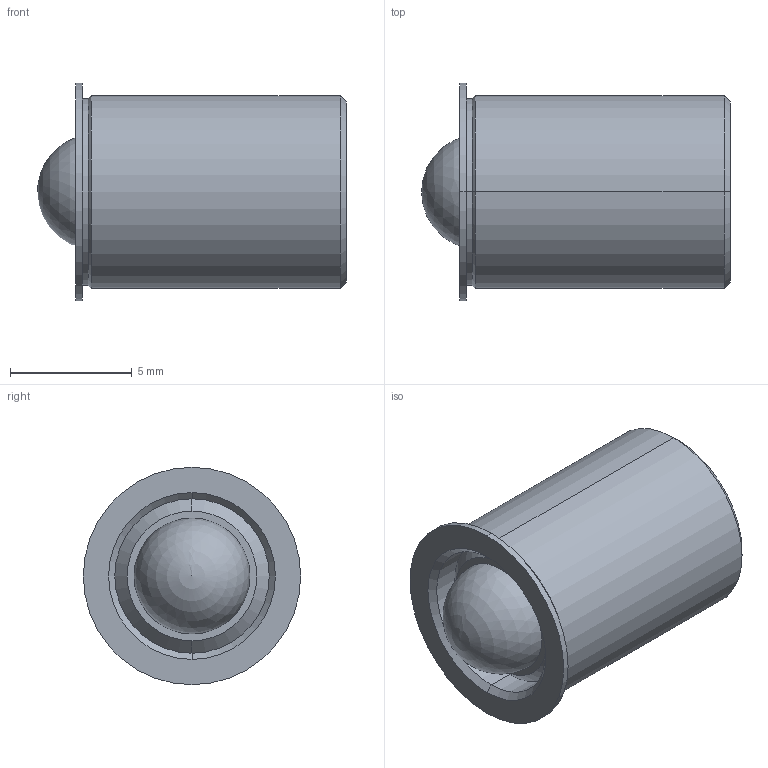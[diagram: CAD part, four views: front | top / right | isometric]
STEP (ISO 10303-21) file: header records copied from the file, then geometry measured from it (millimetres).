
FILE_DESCRIPTION (( 'STEP AP214' ), '1' );
FILE_NAME ('TSB250-80-500_437-AA.STEP', '2013-03-14T12:20:24', ( 'workpc' ), ( 'Microsoft' ), 'SwSTEP 2.0', 'SolidWorks 2013', '' );
FILE_SCHEMA (( 'AUTOMOTIVE_DESIGN' ));
Length unit declared in the file: inch
Products named in the file (1): TSB250-80-500_437-AA
Bounding box: 12.7 x 8.94 x 8.94 mm (x, y, z)
Surface area: 693.8 mm2 (no closed solid volume)
Topology: 0 solids, 4 shells, 33 faces, 77 edges, 49 vertices
Faces by surface type: cone 12, plane 11, cylinder 8, sphere 2
Entity records: 1359 total; most frequent: DIRECTION 174, CARTESIAN_POINT 152, ORIENTED_EDGE 132, EDGE_CURVE 72, AXIS2_PLACEMENT_3D 68, VERTEX_POINT 46, LINE 38, EDGE_LOOP 38
